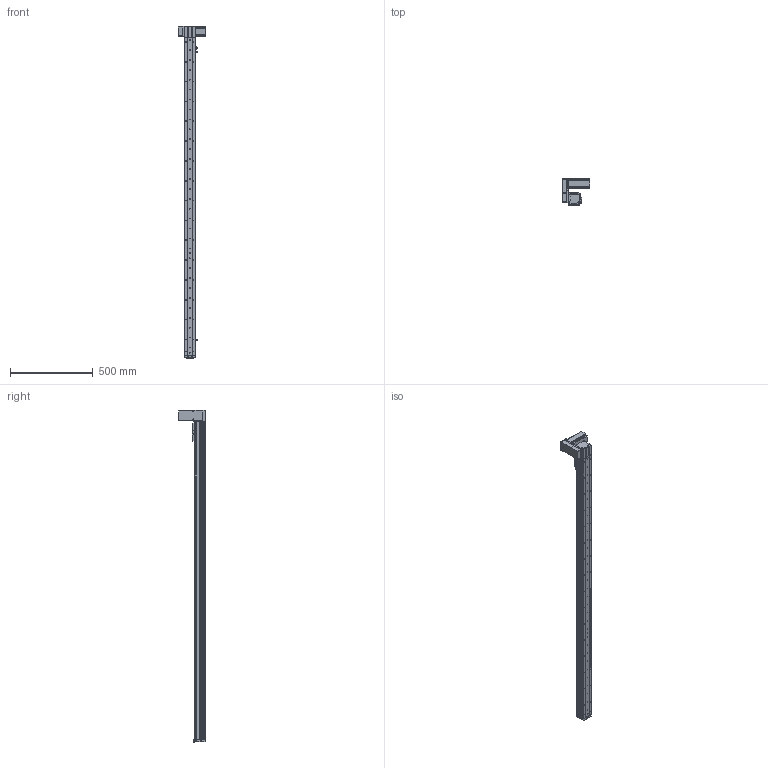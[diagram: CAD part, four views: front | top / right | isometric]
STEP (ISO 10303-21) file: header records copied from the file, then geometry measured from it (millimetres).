
FILE_DESCRIPTION (( 'STEP AP214' ), '1' );
FILE_NAME ('KSD68BS-S1750-MRU-CR.STEP', '2019-11-08T06:34:00', ( '微软用户' ), ( '微软中国' ), 'SwSTEP 2.0', 'SolidWorks 2014', '' );
FILE_SCHEMA (( 'AUTOMOTIVE_DESIGN' ));
Length unit declared in the file: millimetre
Products named in the file (14): 68宽单导轨全封闭同步带端板; 68单导轨全封闭同步带电机座右; 68单导轨全封闭同步带安装板; 悵誘欶奻狟殏; 68宽马达安装板连板上折同步带; 感应片68宽全封闭; U倰嫖萇EEㄜSX672; 台达ECMA－C20604AS伺服电机（400W); KSD68BS 1750行程底板全封闭; KSD68BS-S1750-MRU-CR; KSD68BS 1750行程盖板全封闭; 68遵裔啣揤啣1; 68宽单导轨全封闭丝杆传动安装板1防护罩; KSD68BS 1750行程侧板全封闭
Assembly tree (17 placements, depth 2):
  KSD68BS-S1750-MRU-CR
    KSD68BS 1750行程底板全封闭
    台达ECMA－C20604AS伺服电机（400W)
    U倰嫖萇EEㄜSX672  x3
    感应片68宽全封闭
    68宽马达安装板连板上折同步带
    悵誘欶奻狟殏
    68单导轨全封闭同步带安装板
    68单导轨全封闭同步带电机座右
    68宽单导轨全封闭同步带端板
    KSD68BS 1750行程侧板全封闭  x2
    68宽单导轨全封闭丝杆传动安装板1防护罩
    68遵裔啣揤啣1  x2
    KSD68BS 1750行程盖板全封闭
Bounding box: 167.2 x 159.5 x 2008.1 mm (x, y, z)
Volume: 3547629.9 mm3; surface area: 1448768.5 mm2
Topology: 18 solids, 18 shells, 1636 faces, 4729 edges, 3009 vertices
Faces by surface type: cylinder 809, plane 631, cone 196
Entity records: 53738 total; most frequent: CARTESIAN_POINT 9351, DIRECTION 7993, ORIENTED_EDGE 7646, EDGE_CURVE 3823, AXIS2_PLACEMENT_3D 2921, VERTEX_POINT 2507, LINE 2151, VECTOR 2151
